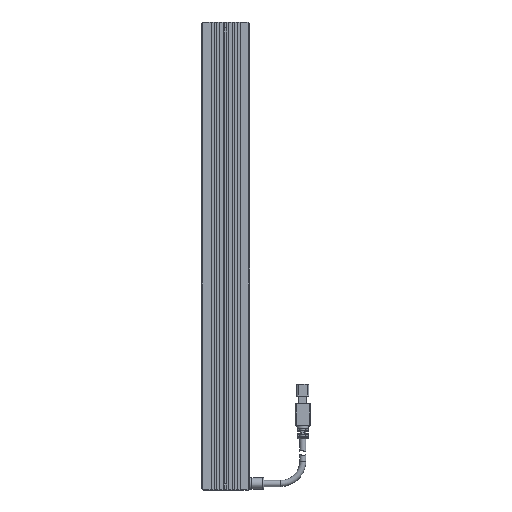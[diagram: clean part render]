
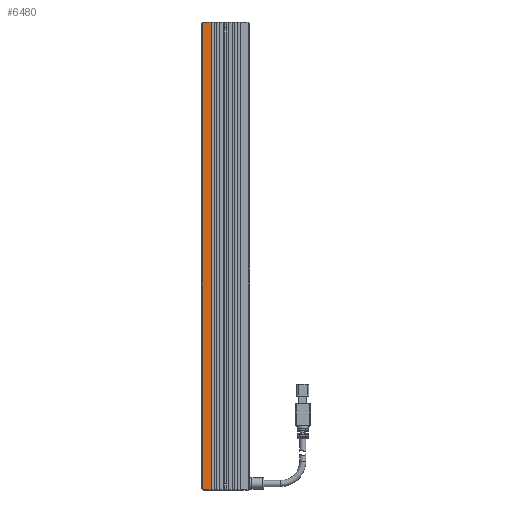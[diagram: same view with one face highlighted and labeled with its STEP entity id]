
A CAD part, top view. The second image highlights one B-rep face of the part: STEP entity #6480.
In plain terms, the highlighted planar face has unit normal (0, 0, 1).
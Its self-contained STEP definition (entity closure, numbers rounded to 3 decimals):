
#409 = ORIENTED_EDGE ( 'NONE', *, *, #7278, .F. ) ;
#848 = ORIENTED_EDGE ( 'NONE', *, *, #7376, .T. ) ;
#1689 = DIRECTION ( 'NONE',  ( 0., -1., 0. ) ) ;
#2191 = EDGE_CURVE ( 'NONE', #9977, #12246, #7774, .T. ) ;
#3855 = LINE ( 'NONE', #17975, #8869 ) ;
#5491 = LINE ( 'NONE', #18866, #15186 ) ;
#6480 = ADVANCED_FACE ( 'NONE', ( #16251 ), #19388, .F. ) ;
#7118 = DIRECTION ( 'NONE',  ( 0., -1., 0. ) ) ;
#7278 = EDGE_CURVE ( 'NONE', #9977, #14087, #12764, .T. ) ;
#7376 = EDGE_CURVE ( 'NONE', #10499, #8438, #17650, .T. ) ;
#7426 = EDGE_CURVE ( 'NONE', #12246, #16874, #10632, .T. ) ;
#7774 = LINE ( 'NONE', #18089, #17631 ) ;
#8025 = VECTOR ( 'NONE', #14905, 1000. ) ;
#8208 = CARTESIAN_POINT ( 'NONE',  ( -15.5, 156., 12.5 ) ) ;
#8225 = EDGE_CURVE ( 'NONE', #14087, #8438, #5491, .T. ) ;
#8438 = VERTEX_POINT ( 'NONE', #18580 ) ;
#8661 = DIRECTION ( 'NONE',  ( 1., 0., 0. ) ) ;
#8862 = ORIENTED_EDGE ( 'NONE', *, *, #8225, .F. ) ;
#8869 = VECTOR ( 'NONE', #19549, 1000. ) ;
#8940 = DIRECTION ( 'NONE',  ( 0., 0., -1. ) ) ;
#9720 = ORIENTED_EDGE ( 'NONE', *, *, #7426, .T. ) ;
#9861 = CARTESIAN_POINT ( 'NONE',  ( -15., -156.5, 12.5 ) ) ;
#9977 = VERTEX_POINT ( 'NONE', #11762 ) ;
#10258 = CARTESIAN_POINT ( 'NONE',  ( -15.5, 156.5, 12.5 ) ) ;
#10499 = VERTEX_POINT ( 'NONE', #9861 ) ;
#10632 = LINE ( 'NONE', #10778, #14606 ) ;
#10778 = CARTESIAN_POINT ( 'NONE',  ( -15.5, 156.5, 12.5 ) ) ;
#10960 = AXIS2_PLACEMENT_3D ( 'NONE', #10258, #8940, #16477 ) ;
#11355 = ORIENTED_EDGE ( 'NONE', *, *, #18582, .T. ) ;
#11762 = CARTESIAN_POINT ( 'NONE',  ( -15., 156.5, 12.5 ) ) ;
#12246 = VERTEX_POINT ( 'NONE', #8208 ) ;
#12764 = LINE ( 'NONE', #16259, #15787 ) ;
#13809 = EDGE_LOOP ( 'NONE', ( #409, #17603, #9720, #11355, #848, #8862 ) ) ;
#14087 = VERTEX_POINT ( 'NONE', #15178 ) ;
#14606 = VECTOR ( 'NONE', #1689, 1000. ) ;
#14905 = DIRECTION ( 'NONE',  ( 1., 0., 0. ) ) ;
#14949 = CARTESIAN_POINT ( 'NONE',  ( -15.5, -156., 12.5 ) ) ;
#15178 = CARTESIAN_POINT ( 'NONE',  ( -9.7, 156.5, 12.5 ) ) ;
#15186 = VECTOR ( 'NONE', #7118, 1000. ) ;
#15787 = VECTOR ( 'NONE', #8661, 1000. ) ;
#16251 = FACE_OUTER_BOUND ( 'NONE', #13809, .T. ) ;
#16259 = CARTESIAN_POINT ( 'NONE',  ( -15.5, 156.5, 12.5 ) ) ;
#16477 = DIRECTION ( 'NONE',  ( -1., 0., 0. ) ) ;
#16534 = CARTESIAN_POINT ( 'NONE',  ( -15.5, -156.5, 12.5 ) ) ;
#16874 = VERTEX_POINT ( 'NONE', #14949 ) ;
#17603 = ORIENTED_EDGE ( 'NONE', *, *, #2191, .T. ) ;
#17631 = VECTOR ( 'NONE', #18026, 1000. ) ;
#17650 = LINE ( 'NONE', #16534, #8025 ) ;
#17975 = CARTESIAN_POINT ( 'NONE',  ( -16., -155.5, 12.5 ) ) ;
#18026 = DIRECTION ( 'NONE',  ( -0.707, -0.707, 0. ) ) ;
#18089 = CARTESIAN_POINT ( 'NONE',  ( -15., 156.5, 12.5 ) ) ;
#18580 = CARTESIAN_POINT ( 'NONE',  ( -9.7, -156.5, 12.5 ) ) ;
#18582 = EDGE_CURVE ( 'NONE', #16874, #10499, #3855, .T. ) ;
#18866 = CARTESIAN_POINT ( 'NONE',  ( -9.7, 156.5, 12.5 ) ) ;
#19388 = PLANE ( 'NONE',  #10960 ) ;
#19549 = DIRECTION ( 'NONE',  ( 0.707, -0.707, 0. ) ) ;
